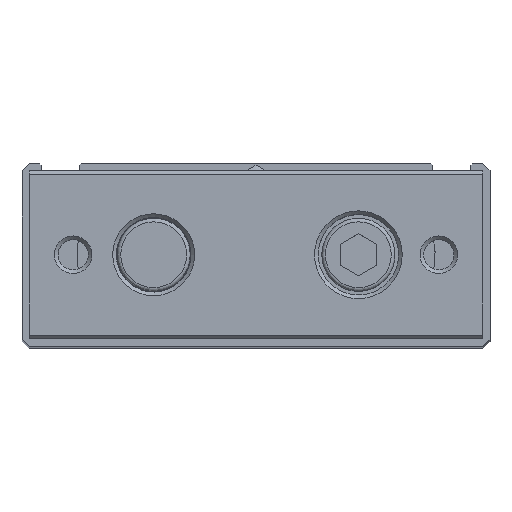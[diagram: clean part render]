
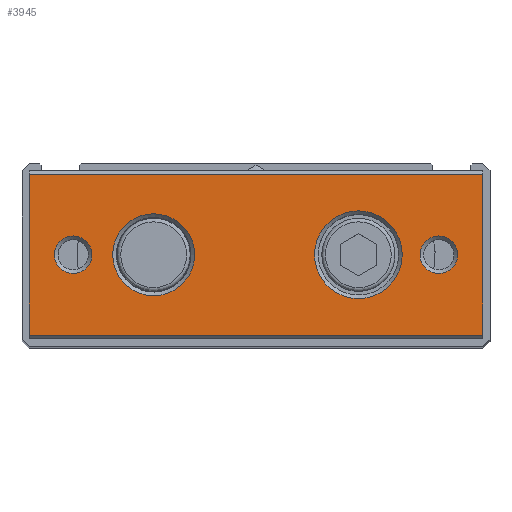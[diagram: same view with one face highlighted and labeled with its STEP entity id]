
A CAD part, top view. The second image highlights one B-rep face of the part: STEP entity #3945.
In plain terms, the highlighted planar face has unit normal (0, 0, 1).
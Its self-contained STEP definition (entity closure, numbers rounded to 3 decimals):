
#3393=CARTESIAN_POINT('',(-31.0,-11.,174.0));
#3394=VERTEX_POINT('',#3393);
#3401=CARTESIAN_POINT('',(-31.0,11.,174.0));
#3402=VERTEX_POINT('',#3401);
#3403=CARTESIAN_POINT('',(-31.0,11.,174.0));
#3404=DIRECTION('',(0.0,-1.0,0.0));
#3405=VECTOR('',#3404,22.);
#3406=LINE('',#3403,#3405);
#3407=EDGE_CURVE('',#3402,#3394,#3406,.T.);
#3521=CARTESIAN_POINT('',(31.0,-11.,174.0));
#3522=VERTEX_POINT('',#3521);
#3529=CARTESIAN_POINT('',(31.0,-11.,174.0));
#3530=DIRECTION('',(-1.0,0.0,0.0));
#3531=VECTOR('',#3530,62.0);
#3532=LINE('',#3529,#3531);
#3533=EDGE_CURVE('',#3522,#3394,#3532,.T.);
#3600=CARTESIAN_POINT('',(31.0,11.,174.0));
#3601=VERTEX_POINT('',#3600);
#3608=CARTESIAN_POINT('',(31.0,-11.,174.0));
#3609=DIRECTION('',(0.0,1.0,0.0));
#3610=VECTOR('',#3609,22.);
#3611=LINE('',#3608,#3610);
#3612=EDGE_CURVE('',#3522,#3601,#3611,.T.);
#3881=CARTESIAN_POINT('',(20.0,0.,174.0));
#3882=VERTEX_POINT('',#3881);
#3883=CARTESIAN_POINT('',(14.0,0.,174.0));
#3884=DIRECTION('',(0.0,0.0,1.0));
#3885=DIRECTION('',(-1.0,0.0,0.0));
#3886=AXIS2_PLACEMENT_3D('',#3883,#3884,#3885);
#3887=CIRCLE('',#3886,6.);
#3888=EDGE_CURVE('',#3882,#3882,#3887,.T.);
#3893=CARTESIAN_POINT('',(0.0,-11.5,174.0));
#3894=DIRECTION('',(0.0,0.0,1.0));
#3895=DIRECTION('',(1.0,0.0,0.0));
#3896=AXIS2_PLACEMENT_3D('',#3893,#3894,#3895);
#3897=PLANE('',#3896);
#3898=ORIENTED_EDGE('',*,*,#3533,.F.);
#3899=ORIENTED_EDGE('',*,*,#3612,.T.);
#3900=CARTESIAN_POINT('',(-31.0,11.,174.0));
#3901=DIRECTION('',(1.0,0.0,0.0));
#3902=VECTOR('',#3901,62.0);
#3903=LINE('',#3900,#3902);
#3904=EDGE_CURVE('',#3402,#3601,#3903,.T.);
#3905=ORIENTED_EDGE('',*,*,#3904,.F.);
#3906=ORIENTED_EDGE('',*,*,#3407,.T.);
#3907=EDGE_LOOP('',(#3898,#3899,#3905,#3906));
#3908=FACE_OUTER_BOUND('',#3907,.T.);
#3909=CARTESIAN_POINT('',(-8.4,0.,174.0));
#3910=VERTEX_POINT('',#3909);
#3911=CARTESIAN_POINT('',(-14.,0.,174.0));
#3912=DIRECTION('',(0.0,0.0,1.0));
#3913=DIRECTION('',(-1.0,0.0,0.0));
#3914=AXIS2_PLACEMENT_3D('',#3911,#3912,#3913);
#3915=CIRCLE('',#3914,5.6);
#3916=EDGE_CURVE('',#3910,#3910,#3915,.T.);
#3917=ORIENTED_EDGE('',*,*,#3916,.F.);
#3918=EDGE_LOOP('',(#3917));
#3919=FACE_BOUND('',#3918,.T.);
#3920=CARTESIAN_POINT('',(27.567,0.,174.0));
#3921=VERTEX_POINT('',#3920);
#3922=CARTESIAN_POINT('',(25.,0.,174.0));
#3923=DIRECTION('',(0.0,0.0,1.0));
#3924=DIRECTION('',(-1.0,0.0,0.0));
#3925=AXIS2_PLACEMENT_3D('',#3922,#3923,#3924);
#3926=CIRCLE('',#3925,2.567);
#3927=EDGE_CURVE('',#3921,#3921,#3926,.T.);
#3928=ORIENTED_EDGE('',*,*,#3927,.F.);
#3929=EDGE_LOOP('',(#3928));
#3930=FACE_BOUND('',#3929,.T.);
#3931=CARTESIAN_POINT('',(-22.433,0.,174.0));
#3932=VERTEX_POINT('',#3931);
#3933=CARTESIAN_POINT('',(-25.0,0.,174.0));
#3934=DIRECTION('',(0.0,0.0,1.0));
#3935=DIRECTION('',(-1.0,0.0,0.0));
#3936=AXIS2_PLACEMENT_3D('',#3933,#3934,#3935);
#3937=CIRCLE('',#3936,2.567);
#3938=EDGE_CURVE('',#3932,#3932,#3937,.T.);
#3939=ORIENTED_EDGE('',*,*,#3938,.F.);
#3940=EDGE_LOOP('',(#3939));
#3941=FACE_BOUND('',#3940,.T.);
#3942=ORIENTED_EDGE('',*,*,#3888,.F.);
#3943=EDGE_LOOP('',(#3942));
#3944=FACE_BOUND('',#3943,.T.);
#3945=ADVANCED_FACE('',(#3908,#3919,#3930,#3941,#3944),#3897,.T.);
